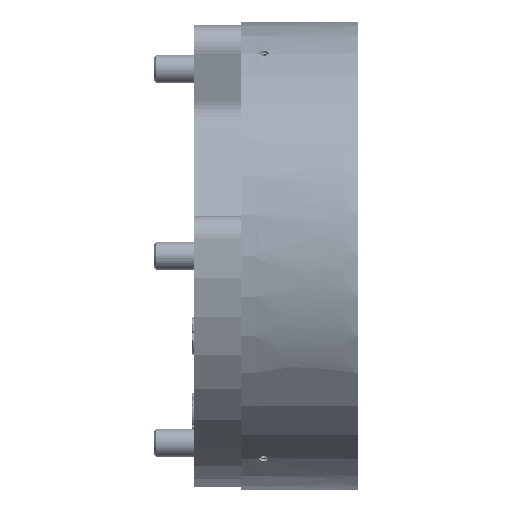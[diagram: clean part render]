
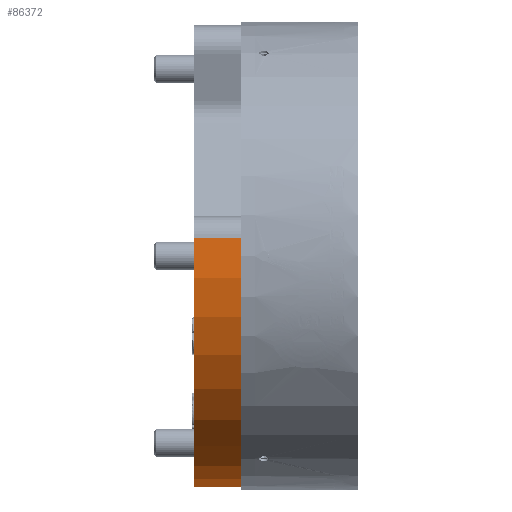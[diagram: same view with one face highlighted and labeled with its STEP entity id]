
A CAD part, front view. The second image highlights one B-rep face of the part: STEP entity #86372.
In plain terms, the highlighted cylindrical face has radius 49.5 mm (diameter 99 mm), a partial arc.
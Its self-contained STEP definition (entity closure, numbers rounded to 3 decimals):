
#15782 = AXIS2_PLACEMENT_3D ( 'NONE', #77939, #211314, #318335 ) ;
#26153 = CARTESIAN_POINT ( 'NONE',  ( -3., 3.907, -49.346 ) ) ;
#29940 = CARTESIAN_POINT ( 'NONE',  ( -13., 3.907, -49.346 ) ) ;
#35590 = VECTOR ( 'NONE', #238911, 1000. ) ;
#45450 = DIRECTION ( 'NONE',  ( -1., 0., 0. ) ) ;
#49080 = EDGE_CURVE ( 'NONE', #203188, #56292, #239869, .T. ) ;
#55344 = CARTESIAN_POINT ( 'NONE',  ( -13., -49.346, 3.907 ) ) ;
#56292 = VERTEX_POINT ( 'NONE', #117274 ) ;
#66546 = CARTESIAN_POINT ( 'NONE',  ( -13., 3.907, -49.346 ) ) ;
#77939 = CARTESIAN_POINT ( 'NONE',  ( -13., 0., 0. ) ) ;
#82859 = EDGE_LOOP ( 'NONE', ( #219504, #145433, #171301, #232750 ) ) ;
#86372 = ADVANCED_FACE ( 'NONE', ( #290997 ), #180499, .T. ) ;
#92529 = VERTEX_POINT ( 'NONE', #55344 ) ;
#94165 = CIRCLE ( 'NONE', #15782, 49.5 ) ;
#110702 = LINE ( 'NONE', #289773, #35590 ) ;
#115370 = DIRECTION ( 'NONE',  ( -1., 0., 0. ) ) ;
#117274 = CARTESIAN_POINT ( 'NONE',  ( -3., -49.346, 3.907 ) ) ;
#134631 = EDGE_CURVE ( 'NONE', #56292, #92529, #110702, .T. ) ;
#145433 = ORIENTED_EDGE ( 'NONE', *, *, #235843, .T. ) ;
#171301 = ORIENTED_EDGE ( 'NONE', *, *, #49080, .T. ) ;
#178790 = CARTESIAN_POINT ( 'NONE',  ( -13., 0., 0. ) ) ;
#180499 = CYLINDRICAL_SURFACE ( 'NONE', #189291, 49.5 ) ;
#189291 = AXIS2_PLACEMENT_3D ( 'NONE', #178790, #45450, #285830 ) ;
#191323 = DIRECTION ( 'NONE',  ( 1., 0., 0. ) ) ;
#203188 = VERTEX_POINT ( 'NONE', #26153 ) ;
#211314 = DIRECTION ( 'NONE',  ( -1., 0., 0. ) ) ;
#219504 = ORIENTED_EDGE ( 'NONE', *, *, #299120, .F. ) ;
#222411 = DIRECTION ( 'NONE',  ( 0., -0.707, 0.707 ) ) ;
#232750 = ORIENTED_EDGE ( 'NONE', *, *, #134631, .T. ) ;
#235843 = EDGE_CURVE ( 'NONE', #326862, #203188, #244015, .T. ) ;
#238911 = DIRECTION ( 'NONE',  ( -1., 0., 0. ) ) ;
#239869 = CIRCLE ( 'NONE', #273432, 49.5 ) ;
#243320 = VECTOR ( 'NONE', #191323, 1000. ) ;
#244015 = LINE ( 'NONE', #29940, #243320 ) ;
#273432 = AXIS2_PLACEMENT_3D ( 'NONE', #339404, #115370, #222411 ) ;
#285830 = DIRECTION ( 'NONE',  ( 0., -0.707, 0.707 ) ) ;
#289773 = CARTESIAN_POINT ( 'NONE',  ( -13., -49.346, 3.907 ) ) ;
#290997 = FACE_OUTER_BOUND ( 'NONE', #82859, .T. ) ;
#299120 = EDGE_CURVE ( 'NONE', #326862, #92529, #94165, .T. ) ;
#318335 = DIRECTION ( 'NONE',  ( 0., -0.707, 0.707 ) ) ;
#326862 = VERTEX_POINT ( 'NONE', #66546 ) ;
#339404 = CARTESIAN_POINT ( 'NONE',  ( -3., 0., 0. ) ) ;
